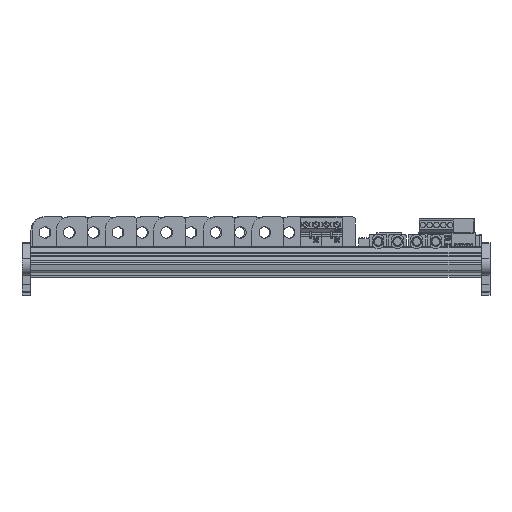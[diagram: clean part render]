
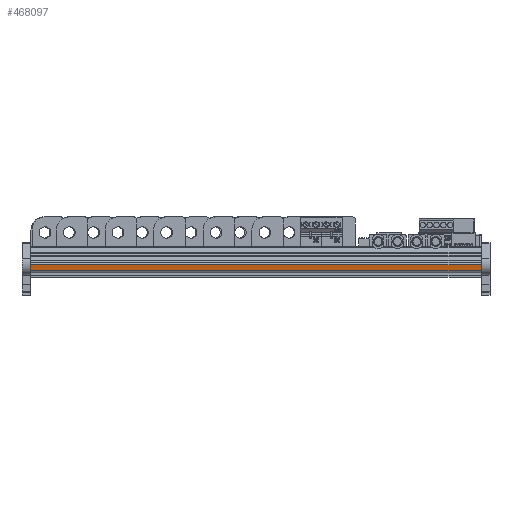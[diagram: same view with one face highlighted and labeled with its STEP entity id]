
A CAD part, front view. The second image highlights one B-rep face of the part: STEP entity #468097.
In plain terms, the highlighted free-form (B-spline) face has degree [1, 1] with [2, 2] control points.
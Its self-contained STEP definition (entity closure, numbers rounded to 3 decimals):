
#458379 = B_SPLINE_SURFACE_WITH_KNOTS('',1,1,(
    (#458380,#458381)
    ,(#458382,#458383
    )),.UNSPECIFIED.,.F.,.F.,.F.,(2,2),(2,2),(-112.497,
    8.897),(-17.3,5.1),.PIECEWISE_BEZIER_KNOTS.);
#458380 = CARTESIAN_POINT('',(60.697,-0.55,170.156));
#458381 = CARTESIAN_POINT('',(60.697,21.85,170.156));
#458382 = CARTESIAN_POINT('',(-60.697,-0.55,170.156));
#458383 = CARTESIAN_POINT('',(-60.697,21.85,170.156));
#458433 = B_SPLINE_SURFACE_WITH_KNOTS('',1,1,(
    (#458434,#458435)
    ,(#458436,#458437
    )),.UNSPECIFIED.,.F.,.F.,.F.,(2,2),(2,2),(-112.497,
    8.897),(-17.3,5.1),.PIECEWISE_BEZIER_KNOTS.);
#458434 = CARTESIAN_POINT('',(60.697,-0.55,-167.434));
#458435 = CARTESIAN_POINT('',(60.697,21.85,-167.434));
#458436 = CARTESIAN_POINT('',(-60.697,-0.55,-167.434));
#458437 = CARTESIAN_POINT('',(-60.697,21.85,-167.434));
#461040 = VERTEX_POINT('',#461041);
#461041 = CARTESIAN_POINT('',(60.67,8.779,-167.434)
  );
#461066 = ( BOUNDED_SURFACE() B_SPLINE_SURFACE(2,1,(
    (#461067,#461068)
    ,(#461069,#461070)
    ,(#461071,#461072
)),.UNSPECIFIED.,.F.,.F.,.F.) B_SPLINE_SURFACE_WITH_KNOTS((3,3),(2,2),(
    1.571,3.336),(-2.,60.),.PIECEWISE_BEZIER_KNOTS.) 
GEOMETRIC_REPRESENTATION_ITEM() RATIONAL_B_SPLINE_SURFACE((
    (1.,1.)
    ,(0.635,0.635)
,(1.,1.))) REPRESENTATION_ITEM('') SURFACE() );
#461067 = CARTESIAN_POINT('',(59.297,10.45,170.156));
#461068 = CARTESIAN_POINT('',(59.297,10.45,-167.434));
#461069 = CARTESIAN_POINT('',(61.,10.45,170.156));
#461070 = CARTESIAN_POINT('',(61.,10.45,-167.434));
#461071 = CARTESIAN_POINT('',(60.67,8.779,170.156));
#461072 = CARTESIAN_POINT('',(60.67,8.779,-167.434)
  );
#461080 = EDGE_CURVE('',#461081,#461040,#461083,.T.);
#461081 = VERTEX_POINT('',#461082);
#461082 = CARTESIAN_POINT('',(59.818,4.463,-167.434)
  );
#461083 = SURFACE_CURVE('',#461084,(#461087,#461094),.PCURVE_S1.);
#461084 = B_SPLINE_CURVE_WITH_KNOTS('',1,(#461085,#461086),
  .UNSPECIFIED.,.F.,.F.,(2,2),(-6.103,-1.703),
  .PIECEWISE_BEZIER_KNOTS.);
#461085 = CARTESIAN_POINT('',(59.818,4.463,-167.434)
  );
#461086 = CARTESIAN_POINT('',(60.67,8.779,-167.434)
  );
#461087 = PCURVE('',#458433,#461088);
#461088 = DEFINITIONAL_REPRESENTATION('',(#461089),#461093);
#461089 = B_SPLINE_CURVE_WITH_KNOTS('',2,(#461090,#461091,#461092),
  .UNSPECIFIED.,.F.,.F.,(3,3),(-6.103,-1.703),
  .PIECEWISE_BEZIER_KNOTS.);
#461090 = CARTESIAN_POINT('',(-111.618,-12.287));
#461091 = CARTESIAN_POINT('',(-112.044,-10.129));
#461092 = CARTESIAN_POINT('',(-112.47,-7.971));
#461093 = ( GEOMETRIC_REPRESENTATION_CONTEXT(2) 
PARAMETRIC_REPRESENTATION_CONTEXT() REPRESENTATION_CONTEXT('2D SPACE',''
  ) );
#461094 = PCURVE('',#461095,#461100);
#461095 = B_SPLINE_SURFACE_WITH_KNOTS('',1,1,(
    (#461096,#461097)
    ,(#461098,#461099
    )),.UNSPECIFIED.,.F.,.F.,.F.,(2,2),(2,2),(-6.103,
    -1.703),(-2.,60.),.PIECEWISE_BEZIER_KNOTS.);
#461096 = CARTESIAN_POINT('',(59.818,4.463,170.156)
  );
#461097 = CARTESIAN_POINT('',(59.818,4.463,-167.434)
  );
#461098 = CARTESIAN_POINT('',(60.67,8.779,170.156));
#461099 = CARTESIAN_POINT('',(60.67,8.779,-167.434)
  );
#461100 = DEFINITIONAL_REPRESENTATION('',(#461101),#461105);
#461101 = B_SPLINE_CURVE_WITH_KNOTS('',2,(#461102,#461103,#461104),
  .UNSPECIFIED.,.F.,.F.,(3,3),(-6.103,-1.703),
  .PIECEWISE_BEZIER_KNOTS.);
#461102 = CARTESIAN_POINT('',(-6.103,60.));
#461103 = CARTESIAN_POINT('',(-3.903,60.));
#461104 = CARTESIAN_POINT('',(-1.703,60.));
#461105 = ( GEOMETRIC_REPRESENTATION_CONTEXT(2) 
PARAMETRIC_REPRESENTATION_CONTEXT() REPRESENTATION_CONTEXT('2D SPACE',''
  ) );
#461133 = ( BOUNDED_SURFACE() B_SPLINE_SURFACE(2,1,(
    (#461134,#461135)
    ,(#461136,#461137)
    ,(#461138,#461139
)),.UNSPECIFIED.,.F.,.F.,.F.) B_SPLINE_SURFACE_WITH_KNOTS((3,3),(2,2),(
    3.336,4.712),(-2.,60.),.PIECEWISE_BEZIER_KNOTS.) 
GEOMETRIC_REPRESENTATION_ITEM() RATIONAL_B_SPLINE_SURFACE((
    (1.,1.)
    ,(0.773,0.773)
,(1.,1.))) REPRESENTATION_ITEM('') SURFACE() );
#461134 = CARTESIAN_POINT('',(59.818,4.463,170.156)
  );
#461135 = CARTESIAN_POINT('',(59.818,4.463,-167.434)
  );
#461136 = CARTESIAN_POINT('',(59.5,2.85,170.156));
#461137 = CARTESIAN_POINT('',(59.5,2.85,-167.434));
#461138 = CARTESIAN_POINT('',(57.856,2.85,170.156));
#461139 = CARTESIAN_POINT('',(57.856,2.85,-167.434));
#463049 = VERTEX_POINT('',#463050);
#463050 = CARTESIAN_POINT('',(59.818,4.463,170.156)
  );
#463081 = EDGE_CURVE('',#463049,#463082,#463084,.T.);
#463082 = VERTEX_POINT('',#463083);
#463083 = CARTESIAN_POINT('',(60.67,8.779,170.156));
#463084 = SURFACE_CURVE('',#463085,(#463088,#463095),.PCURVE_S1.);
#463085 = B_SPLINE_CURVE_WITH_KNOTS('',1,(#463086,#463087),
  .UNSPECIFIED.,.F.,.F.,(2,2),(-6.103,-1.703),
  .PIECEWISE_BEZIER_KNOTS.);
#463086 = CARTESIAN_POINT('',(59.818,4.463,170.156)
  );
#463087 = CARTESIAN_POINT('',(60.67,8.779,170.156));
#463088 = PCURVE('',#458379,#463089);
#463089 = DEFINITIONAL_REPRESENTATION('',(#463090),#463094);
#463090 = B_SPLINE_CURVE_WITH_KNOTS('',2,(#463091,#463092,#463093),
  .UNSPECIFIED.,.F.,.F.,(3,3),(-6.103,-1.703),
  .PIECEWISE_BEZIER_KNOTS.);
#463091 = CARTESIAN_POINT('',(-111.618,-12.287));
#463092 = CARTESIAN_POINT('',(-112.044,-10.129));
#463093 = CARTESIAN_POINT('',(-112.47,-7.971));
#463094 = ( GEOMETRIC_REPRESENTATION_CONTEXT(2) 
PARAMETRIC_REPRESENTATION_CONTEXT() REPRESENTATION_CONTEXT('2D SPACE',''
  ) );
#463095 = PCURVE('',#461095,#463096);
#463096 = DEFINITIONAL_REPRESENTATION('',(#463097),#463101);
#463097 = B_SPLINE_CURVE_WITH_KNOTS('',2,(#463098,#463099,#463100),
  .UNSPECIFIED.,.F.,.F.,(3,3),(-6.103,-1.703),
  .PIECEWISE_BEZIER_KNOTS.);
#463098 = CARTESIAN_POINT('',(-6.103,-2.));
#463099 = CARTESIAN_POINT('',(-3.903,-2.));
#463100 = CARTESIAN_POINT('',(-1.703,-2.));
#463101 = ( GEOMETRIC_REPRESENTATION_CONTEXT(2) 
PARAMETRIC_REPRESENTATION_CONTEXT() REPRESENTATION_CONTEXT('2D SPACE',''
  ) );
#466166 = EDGE_CURVE('',#461081,#463049,#466167,.T.);
#466167 = SURFACE_CURVE('',#466168,(#466171,#466178),.PCURVE_S1.);
#466168 = B_SPLINE_CURVE_WITH_KNOTS('',1,(#466169,#466170),
  .UNSPECIFIED.,.F.,.F.,(2,2),(-60.,2.),.PIECEWISE_BEZIER_KNOTS.);
#466169 = CARTESIAN_POINT('',(59.818,4.463,-167.434)
  );
#466170 = CARTESIAN_POINT('',(59.818,4.463,170.156)
  );
#466171 = PCURVE('',#461133,#466172);
#466172 = DEFINITIONAL_REPRESENTATION('',(#466173),#466177);
#466173 = B_SPLINE_CURVE_WITH_KNOTS('',2,(#466174,#466175,#466176),
  .UNSPECIFIED.,.F.,.F.,(3,3),(-60.,2.),.PIECEWISE_BEZIER_KNOTS.);
#466174 = CARTESIAN_POINT('',(3.336,60.));
#466175 = CARTESIAN_POINT('',(3.336,29.));
#466176 = CARTESIAN_POINT('',(3.336,-2.));
#466177 = ( GEOMETRIC_REPRESENTATION_CONTEXT(2) 
PARAMETRIC_REPRESENTATION_CONTEXT() REPRESENTATION_CONTEXT('2D SPACE',''
  ) );
#466178 = PCURVE('',#461095,#466179);
#466179 = DEFINITIONAL_REPRESENTATION('',(#466180),#466184);
#466180 = B_SPLINE_CURVE_WITH_KNOTS('',2,(#466181,#466182,#466183),
  .UNSPECIFIED.,.F.,.F.,(3,3),(-60.,2.),.PIECEWISE_BEZIER_KNOTS.);
#466181 = CARTESIAN_POINT('',(-6.103,60.));
#466182 = CARTESIAN_POINT('',(-6.103,29.));
#466183 = CARTESIAN_POINT('',(-6.103,-2.));
#466184 = ( GEOMETRIC_REPRESENTATION_CONTEXT(2) 
PARAMETRIC_REPRESENTATION_CONTEXT() REPRESENTATION_CONTEXT('2D SPACE',''
  ) );
#466239 = EDGE_CURVE('',#461040,#463082,#466240,.T.);
#466240 = SURFACE_CURVE('',#466241,(#466244,#466251),.PCURVE_S1.);
#466241 = B_SPLINE_CURVE_WITH_KNOTS('',1,(#466242,#466243),
  .UNSPECIFIED.,.F.,.F.,(2,2),(-60.,2.),.PIECEWISE_BEZIER_KNOTS.);
#466242 = CARTESIAN_POINT('',(60.67,8.779,-167.434)
  );
#466243 = CARTESIAN_POINT('',(60.67,8.779,170.156));
#466244 = PCURVE('',#461066,#466245);
#466245 = DEFINITIONAL_REPRESENTATION('',(#466246),#466250);
#466246 = B_SPLINE_CURVE_WITH_KNOTS('',2,(#466247,#466248,#466249),
  .UNSPECIFIED.,.F.,.F.,(3,3),(-60.,2.),.PIECEWISE_BEZIER_KNOTS.);
#466247 = CARTESIAN_POINT('',(3.336,60.));
#466248 = CARTESIAN_POINT('',(3.336,29.));
#466249 = CARTESIAN_POINT('',(3.336,-2.));
#466250 = ( GEOMETRIC_REPRESENTATION_CONTEXT(2) 
PARAMETRIC_REPRESENTATION_CONTEXT() REPRESENTATION_CONTEXT('2D SPACE',''
  ) );
#466251 = PCURVE('',#461095,#466252);
#466252 = DEFINITIONAL_REPRESENTATION('',(#466253),#466257);
#466253 = B_SPLINE_CURVE_WITH_KNOTS('',2,(#466254,#466255,#466256),
  .UNSPECIFIED.,.F.,.F.,(3,3),(-60.,2.),.PIECEWISE_BEZIER_KNOTS.);
#466254 = CARTESIAN_POINT('',(-1.703,60.));
#466255 = CARTESIAN_POINT('',(-1.703,29.));
#466256 = CARTESIAN_POINT('',(-1.703,-2.));
#466257 = ( GEOMETRIC_REPRESENTATION_CONTEXT(2) 
PARAMETRIC_REPRESENTATION_CONTEXT() REPRESENTATION_CONTEXT('2D SPACE',''
  ) );
#468097 = ADVANCED_FACE('',(#468098),#461095,.F.);
#468098 = FACE_BOUND('',#468099,.T.);
#468099 = EDGE_LOOP('',(#468100,#468101,#468102,#468103));
#468100 = ORIENTED_EDGE('',*,*,#463081,.F.);
#468101 = ORIENTED_EDGE('',*,*,#466166,.F.);
#468102 = ORIENTED_EDGE('',*,*,#461080,.T.);
#468103 = ORIENTED_EDGE('',*,*,#466239,.T.);
